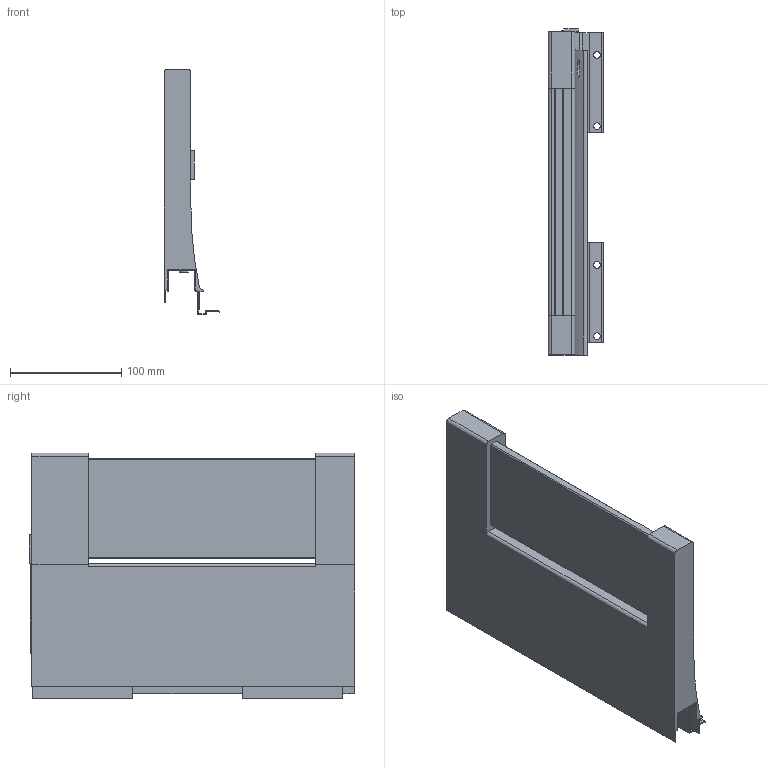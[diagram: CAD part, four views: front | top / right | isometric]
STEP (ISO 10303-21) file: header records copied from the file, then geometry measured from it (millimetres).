
FILE_DESCRIPTION (( 'STEP AP214' ), '1' );
FILE_NAME ('_XP Agantis Dekorseite H127 NL300 LI Top Glashalter.step', '2010-07-08T06:29:28', ( 'grass' ), ( '' ), 'SwSTEP 2.0', 'SolidWorks 2010', '' );
FILE_SCHEMA (( 'AUTOMOTIVE_DESIGN' ));
Length unit declared in the file: millimetre
Products named in the file (1): _XP Agantis Dekorseite H127 NL300 LI  Top Glashalter
Bounding box: 50.11 x 292.6 x 220.7 mm (x, y, z)
Volume: 977873.7 mm3; surface area: 185782.6 mm2
Topology: 1 solids, 1 shells, 150 faces, 434 edges, 285 vertices
Faces by surface type: plane 121, cylinder 29
Entity records: 5017 total; most frequent: CARTESIAN_POINT 957, ORIENTED_EDGE 868, DIRECTION 792, EDGE_CURVE 434, LINE 374, VECTOR 374, VERTEX_POINT 285, AXIS2_PLACEMENT_3D 209
